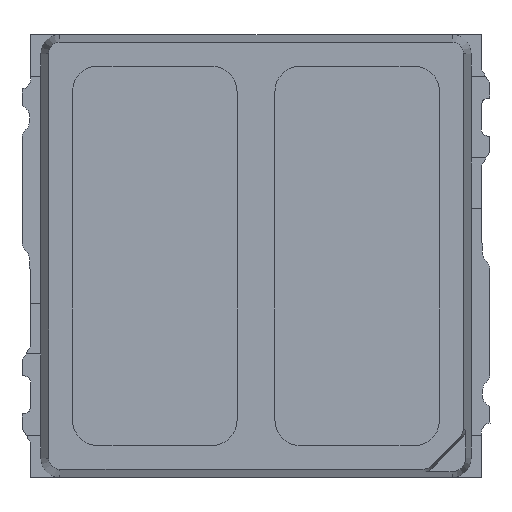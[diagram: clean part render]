
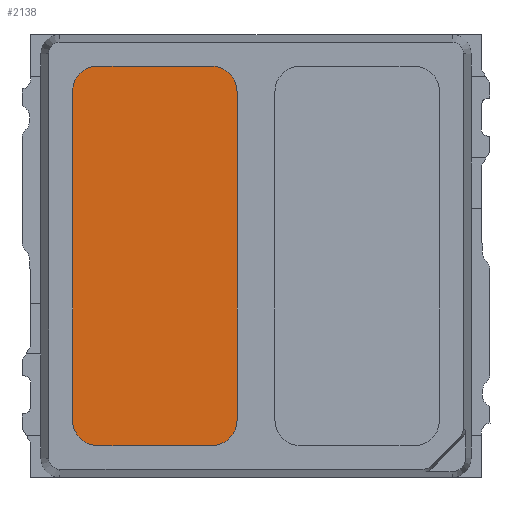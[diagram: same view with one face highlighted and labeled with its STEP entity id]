
A CAD part, top view. The second image highlights one B-rep face of the part: STEP entity #2138.
In plain terms, the highlighted planar face has unit normal (0, 0, 1).
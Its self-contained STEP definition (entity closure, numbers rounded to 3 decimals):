
#81 = CARTESIAN_POINT ( 'NONE',  ( -0.275, -1.491, 0.5 ) ) ;
#83 = CARTESIAN_POINT ( 'NONE',  ( -0.15, 1.3, 0.5 ) ) ;
#133 = CARTESIAN_POINT ( 'NONE',  ( -0.326, -1.5, 0.5 ) ) ;
#343 = ORIENTED_EDGE ( 'NONE', *, *, #7975, .T. ) ;
#454 = ORIENTED_EDGE ( 'NONE', *, *, #8448, .T. ) ;
#488 = CARTESIAN_POINT ( 'NONE',  ( -1.325, 1.491, 0.5 ) ) ;
#543 = CARTESIAN_POINT ( 'NONE',  ( -1.441, 1.375, 0.5 ) ) ;
#571 = CARTESIAN_POINT ( 'NONE',  ( -0.15, 1.324, 0.5 ) ) ;
#631 = VERTEX_POINT ( 'NONE', #8709 ) ;
#639 = CARTESIAN_POINT ( 'NONE',  ( -1.396, 1.446, 0.5 ) ) ;
#650 = DIRECTION ( 'NONE',  ( 1., 0., 0. ) ) ;
#665 = VECTOR ( 'NONE', #7406, 1000. ) ;
#1068 = LINE ( 'NONE', #5610, #5154 ) ;
#1264 = CARTESIAN_POINT ( 'NONE',  ( -1.274, -1.5, 0.5 ) ) ;
#1612 = CARTESIAN_POINT ( 'NONE',  ( -0.204, -1.446, 0.5 ) ) ;
#1708 = CARTESIAN_POINT ( 'NONE',  ( -0.15, -1.324, 0.5 ) ) ;
#1888 = CARTESIAN_POINT ( 'NONE',  ( -0.204, 1.446, 0.5 ) ) ;
#1963 = CARTESIAN_POINT ( 'NONE',  ( -0.35, 1.5, 0.5 ) ) ;
#2138 = ADVANCED_FACE ( 'NONE', ( #2331 ), #9233, .F. ) ;
#2143 = ORIENTED_EDGE ( 'NONE', *, *, #5444, .T. ) ;
#2188 = ORIENTED_EDGE ( 'NONE', *, *, #7798, .T. ) ;
#2199 = AXIS2_PLACEMENT_3D ( 'NONE', #7841, #6163, #8585 ) ;
#2331 = FACE_OUTER_BOUND ( 'NONE', #4056, .T. ) ;
#2869 = LINE ( 'NONE', #5904, #8793 ) ;
#2989 = VERTEX_POINT ( 'NONE', #5560 ) ;
#3112 = CARTESIAN_POINT ( 'NONE',  ( -0.159, -1.375, 0.5 ) ) ;
#3306 = VERTEX_POINT ( 'NONE', #83 ) ;
#3462 = CARTESIAN_POINT ( 'NONE',  ( -0.35, -1.5, 0.5 ) ) ;
#3896 = CARTESIAN_POINT ( 'NONE',  ( -0.35, -1.5, 0.5 ) ) ;
#4056 = EDGE_LOOP ( 'NONE', ( #2143, #454, #8801, #343, #9012, #2188, #5307, #5932 ) ) ;
#4208 = CARTESIAN_POINT ( 'NONE',  ( -1.441, -1.375, 0.5 ) ) ;
#5009 = DIRECTION ( 'NONE',  ( -1., 0., 0. ) ) ;
#5066 = CARTESIAN_POINT ( 'NONE',  ( -1.45, -1.324, 0.5 ) ) ;
#5083 = CARTESIAN_POINT ( 'NONE',  ( -0.15, 1.3, 0.5 ) ) ;
#5152 = CARTESIAN_POINT ( 'NONE',  ( -1.45, 1.324, 0.5 ) ) ;
#5154 = VECTOR ( 'NONE', #9235, 1000. ) ;
#5242 = VERTEX_POINT ( 'NONE', #5966 ) ;
#5307 = ORIENTED_EDGE ( 'NONE', *, *, #6008, .T. ) ;
#5444 = EDGE_CURVE ( 'NONE', #8873, #631, #9288, .T. ) ;
#5560 = CARTESIAN_POINT ( 'NONE',  ( -0.35, 1.5, 0.5 ) ) ;
#5610 = CARTESIAN_POINT ( 'NONE',  ( -0.15, -1.3, 0.5 ) ) ;
#5660 = CARTESIAN_POINT ( 'NONE',  ( -1.45, -1.3, 0.5 ) ) ;
#5740 = LINE ( 'NONE', #1963, #7993 ) ;
#5864 = LINE ( 'NONE', #7355, #665 ) ;
#5904 = CARTESIAN_POINT ( 'NONE',  ( -1.25, -1.5, 0.5 ) ) ;
#5932 = ORIENTED_EDGE ( 'NONE', *, *, #9276, .T. ) ;
#5966 = CARTESIAN_POINT ( 'NONE',  ( -0.15, -1.3, 0.5 ) ) ;
#6008 = EDGE_CURVE ( 'NONE', #3306, #2989, #8138, .T. ) ;
#6163 = DIRECTION ( 'NONE',  ( 0., 0., -1. ) ) ;
#6697 = CARTESIAN_POINT ( 'NONE',  ( -1.45, 1.3, 0.5 ) ) ;
#6744 = CARTESIAN_POINT ( 'NONE',  ( -1.274, 1.5, 0.5 ) ) ;
#6777 = VERTEX_POINT ( 'NONE', #8255 ) ;
#6875 = B_SPLINE_CURVE_WITH_KNOTS ( 'NONE', 3,
 ( #3896, #133, #81, #1612, #3112, #1708, #8572 ),
 .UNSPECIFIED., .F., .F.,
 ( 4, 1, 1, 1, 4 ),
 ( 0., 0.25, 0.5, 0.75, 1. ),
 .UNSPECIFIED. ) ;
#7313 = CARTESIAN_POINT ( 'NONE',  ( -0.275, 1.491, 0.5 ) ) ;
#7343 = CARTESIAN_POINT ( 'NONE',  ( -1.25, -1.5, 0.5 ) ) ;
#7355 = CARTESIAN_POINT ( 'NONE',  ( -1.45, 1.3, 0.5 ) ) ;
#7406 = DIRECTION ( 'NONE',  ( 0., -1., 0. ) ) ;
#7798 = EDGE_CURVE ( 'NONE', #5242, #3306, #1068, .T. ) ;
#7841 = CARTESIAN_POINT ( 'NONE',  ( -1.391, 1.441, 0.5 ) ) ;
#7858 = VERTEX_POINT ( 'NONE', #3462 ) ;
#7876 = EDGE_CURVE ( 'NONE', #6777, #8738, #9013, .T. ) ;
#7975 = EDGE_CURVE ( 'NONE', #8738, #7858, #2869, .T. ) ;
#7993 = VECTOR ( 'NONE', #5009, 1000. ) ;
#8076 = CARTESIAN_POINT ( 'NONE',  ( -1.325, -1.491, 0.5 ) ) ;
#8091 = CARTESIAN_POINT ( 'NONE',  ( -0.35, 1.5, 0.5 ) ) ;
#8111 = CARTESIAN_POINT ( 'NONE',  ( -1.25, 1.5, 0.5 ) ) ;
#8138 = B_SPLINE_CURVE_WITH_KNOTS ( 'NONE', 3,
 ( #5083, #571, #9707, #1888, #7313, #9503, #8091 ),
 .UNSPECIFIED., .F., .F.,
 ( 4, 1, 1, 1, 4 ),
 ( 0., 0.25, 0.5, 0.75, 1. ),
 .UNSPECIFIED. ) ;
#8255 = CARTESIAN_POINT ( 'NONE',  ( -1.45, -1.3, 0.5 ) ) ;
#8448 = EDGE_CURVE ( 'NONE', #631, #6777, #5864, .T. ) ;
#8572 = CARTESIAN_POINT ( 'NONE',  ( -0.15, -1.3, 0.5 ) ) ;
#8585 = DIRECTION ( 'NONE',  ( -1., 0., 0. ) ) ;
#8640 = CARTESIAN_POINT ( 'NONE',  ( -1.25, -1.5, 0.5 ) ) ;
#8709 = CARTESIAN_POINT ( 'NONE',  ( -1.45, 1.3, 0.5 ) ) ;
#8738 = VERTEX_POINT ( 'NONE', #8640 ) ;
#8793 = VECTOR ( 'NONE', #650, 1000. ) ;
#8801 = ORIENTED_EDGE ( 'NONE', *, *, #7876, .T. ) ;
#8836 = CARTESIAN_POINT ( 'NONE',  ( -1.25, 1.5, 0.5 ) ) ;
#8873 = VERTEX_POINT ( 'NONE', #8836 ) ;
#9012 = ORIENTED_EDGE ( 'NONE', *, *, #9782, .T. ) ;
#9013 = B_SPLINE_CURVE_WITH_KNOTS ( 'NONE', 3,
 ( #5660, #5066, #4208, #9538, #8076, #1264, #7343 ),
 .UNSPECIFIED., .F., .F.,
 ( 4, 1, 1, 1, 4 ),
 ( 0., 0.25, 0.5, 0.75, 1. ),
 .UNSPECIFIED. ) ;
#9233 = PLANE ( 'NONE',  #2199 ) ;
#9235 = DIRECTION ( 'NONE',  ( 0., 1., 0. ) ) ;
#9276 = EDGE_CURVE ( 'NONE', #2989, #8873, #5740, .T. ) ;
#9288 = B_SPLINE_CURVE_WITH_KNOTS ( 'NONE', 3,
 ( #8111, #6744, #488, #639, #543, #5152, #6697 ),
 .UNSPECIFIED., .F., .F.,
 ( 4, 1, 1, 1, 4 ),
 ( 0., 0.25, 0.5, 0.75, 1. ),
 .UNSPECIFIED. ) ;
#9503 = CARTESIAN_POINT ( 'NONE',  ( -0.326, 1.5, 0.5 ) ) ;
#9538 = CARTESIAN_POINT ( 'NONE',  ( -1.396, -1.446, 0.5 ) ) ;
#9707 = CARTESIAN_POINT ( 'NONE',  ( -0.159, 1.375, 0.5 ) ) ;
#9782 = EDGE_CURVE ( 'NONE', #7858, #5242, #6875, .T. ) ;
